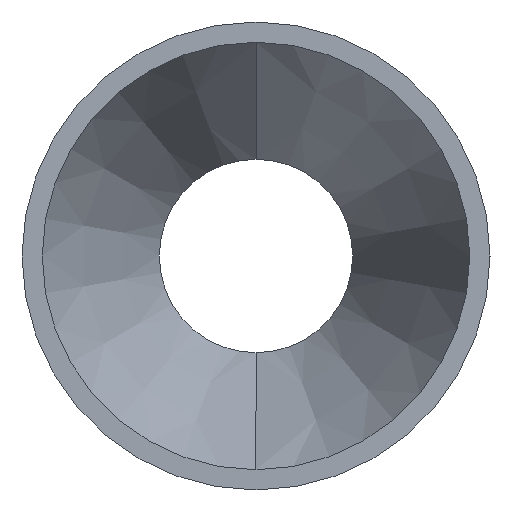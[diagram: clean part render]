
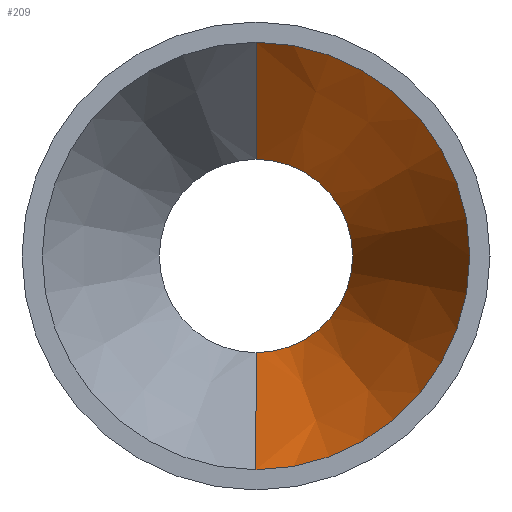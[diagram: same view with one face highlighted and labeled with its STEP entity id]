
A CAD part, left-side view. The second image highlights one B-rep face of the part: STEP entity #209.
In plain terms, the highlighted conical face has half-angle 23.723 degrees and reference radius 17.4 mm.
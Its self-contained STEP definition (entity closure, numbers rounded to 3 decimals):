
#10 = CARTESIAN_POINT ( 'NONE',  ( 9.525, 0., 17.4 ) ) ;
#25 = CARTESIAN_POINT ( 'NONE',  ( 9.525, 0., -17.4 ) ) ;
#27 = ORIENTED_EDGE ( 'NONE', *, *, #399, .T. ) ;
#32 = DIRECTION ( 'NONE',  ( -0.916, 0., -0.402 ) ) ;
#40 = CARTESIAN_POINT ( 'NONE',  ( 31.2, 0., 7.875 ) ) ;
#61 = VERTEX_POINT ( 'NONE', #261 ) ;
#63 = FACE_OUTER_BOUND ( 'NONE', #195, .T. ) ;
#92 = LINE ( 'NONE', #25, #391 ) ;
#117 = CIRCLE ( 'NONE', #165, 7.875 ) ;
#124 = AXIS2_PLACEMENT_3D ( 'NONE', #160, #215, #403 ) ;
#130 = DIRECTION ( 'NONE',  ( -1., 0., 0. ) ) ;
#138 = CARTESIAN_POINT ( 'NONE',  ( 9.525, 0., 0. ) ) ;
#153 = CIRCLE ( 'NONE', #319, 17.4 ) ;
#154 = VERTEX_POINT ( 'NONE', #10 ) ;
#157 = ORIENTED_EDGE ( 'NONE', *, *, #405, .F. ) ;
#160 = CARTESIAN_POINT ( 'NONE',  ( 9.525, 0., 0. ) ) ;
#164 = LINE ( 'NONE', #219, #332 ) ;
#165 = AXIS2_PLACEMENT_3D ( 'NONE', #316, #130, #348 ) ;
#170 = EDGE_CURVE ( 'NONE', #61, #154, #153, .T. ) ;
#195 = EDGE_LOOP ( 'NONE', ( #157, #27, #263, #389 ) ) ;
#209 = ADVANCED_FACE ( 'NONE', ( #63 ), #327, .F. ) ;
#215 = DIRECTION ( 'NONE',  ( -1., 0., 0. ) ) ;
#219 = CARTESIAN_POINT ( 'NONE',  ( 9.525, 0., 17.4 ) ) ;
#236 = VERTEX_POINT ( 'NONE', #40 ) ;
#252 = VERTEX_POINT ( 'NONE', #273 ) ;
#257 = DIRECTION ( 'NONE',  ( -0.916, 0., 0.402 ) ) ;
#261 = CARTESIAN_POINT ( 'NONE',  ( 9.525, 0., -17.4 ) ) ;
#263 = ORIENTED_EDGE ( 'NONE', *, *, #170, .T. ) ;
#273 = CARTESIAN_POINT ( 'NONE',  ( 31.2, 0., -7.875 ) ) ;
#316 = CARTESIAN_POINT ( 'NONE',  ( 31.2, 0., 0. ) ) ;
#319 = AXIS2_PLACEMENT_3D ( 'NONE', #138, #362, #325 ) ;
#325 = DIRECTION ( 'NONE',  ( 0., 0., 1. ) ) ;
#327 = CONICAL_SURFACE ( 'NONE', #124, 17.4, 0.414 ) ;
#332 = VECTOR ( 'NONE', #257, 1000. ) ;
#348 = DIRECTION ( 'NONE',  ( 0., 0., 1. ) ) ;
#362 = DIRECTION ( 'NONE',  ( -1., 0., 0. ) ) ;
#377 = EDGE_CURVE ( 'NONE', #236, #154, #164, .T. ) ;
#389 = ORIENTED_EDGE ( 'NONE', *, *, #377, .F. ) ;
#391 = VECTOR ( 'NONE', #32, 1000. ) ;
#399 = EDGE_CURVE ( 'NONE', #252, #61, #92, .T. ) ;
#403 = DIRECTION ( 'NONE',  ( 0., 0., 1. ) ) ;
#405 = EDGE_CURVE ( 'NONE', #252, #236, #117, .T. ) ;
